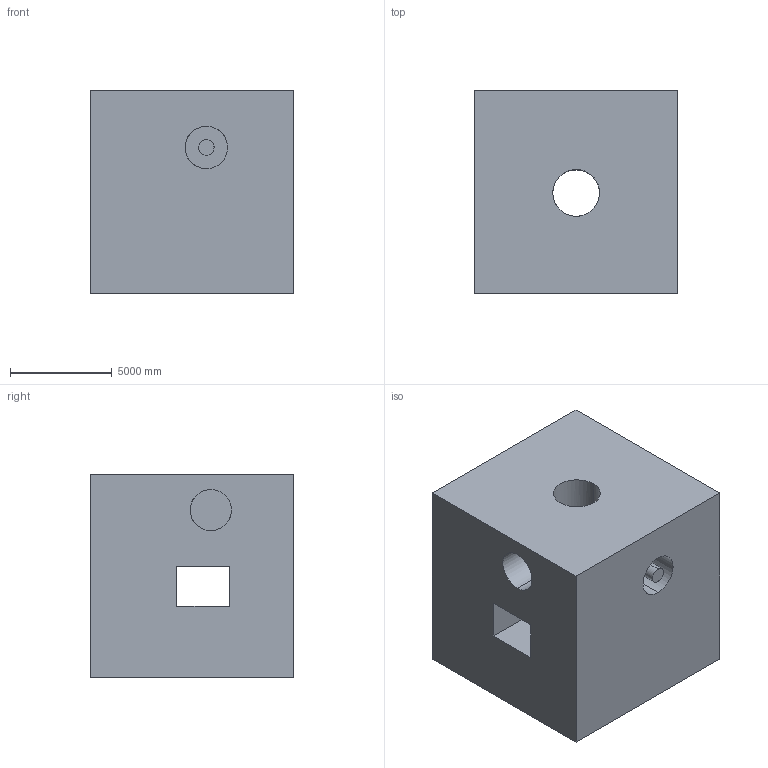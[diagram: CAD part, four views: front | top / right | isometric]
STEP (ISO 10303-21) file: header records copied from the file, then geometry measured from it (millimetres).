
FILE_DESCRIPTION (( 'STEP AP203' ), '1' );
FILE_NAME ('332.STEP', '2022-07-28T14:22:31', ( 'user' ), ( '' ), 'SwSTEP 2.0', 'SolidWorks 2021', '' );
FILE_SCHEMA (( 'CONFIG_CONTROL_DESIGN' ));
Length unit declared in the file: centimetre
Products named in the file (1): 332
Bounding box: 10000 x 10000 x 10000 mm (x, y, z)
Volume: 871210723115.6 mm3; surface area: 814020448.5 mm2
Topology: 2 solids, 2 shells, 31 faces, 90 edges, 60 vertices
Faces by surface type: cylinder 17, plane 14
Entity records: 2662 total; most frequent: CARTESIAN_POINT 1767, ORIENTED_EDGE 180, DIRECTION 154, EDGE_CURVE 90, VERTEX_POINT 60, AXIS2_PLACEMENT_3D 54, LINE 46, VECTOR 46
